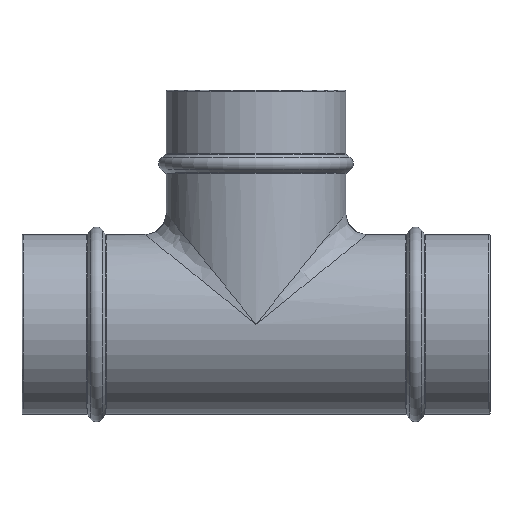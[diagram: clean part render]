
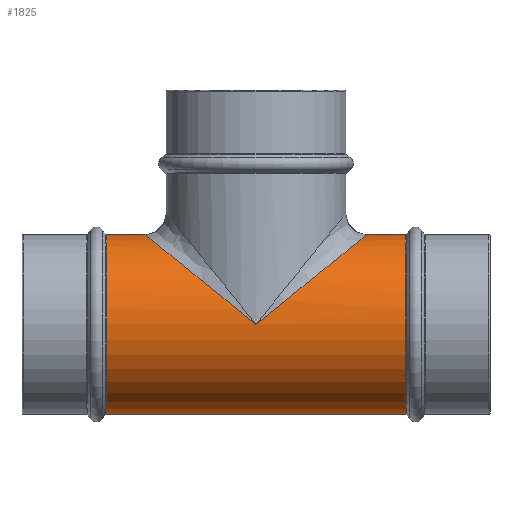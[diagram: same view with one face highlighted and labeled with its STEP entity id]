
A CAD part, top view. The second image highlights one B-rep face of the part: STEP entity #1825.
In plain terms, the highlighted cylindrical face has radius 42.25 mm (diameter 84.5 mm), a partial arc.
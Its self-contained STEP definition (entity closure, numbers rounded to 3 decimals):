
#395=DIRECTION('',(-1.,0.,0.));
#396=VECTOR('',#395,18.092);
#397=CARTESIAN_POINT('',(70.342,42.25,0.));
#398=LINE('',#397,#396);
#402=CARTESIAN_POINT('',(52.25,42.25,
0.));
#458=DIRECTION('',(-1.,0.,0.));
#459=VECTOR('',#458,18.092);
#460=CARTESIAN_POINT('',(-52.25,42.25,
0.));
#461=LINE('',#460,#459);
#473=DIRECTION('',(-1.,0.,0.));
#474=VECTOR('',#473,140.684);
#475=CARTESIAN_POINT('',(70.342,-42.25,0.));
#476=LINE('',#475,#474);
#556=CARTESIAN_POINT('',(70.342,0.,0.));
#557=DIRECTION('',(1.,0.,0.));
#558=DIRECTION('',(0.,1.,0.));
#559=AXIS2_PLACEMENT_3D('',#556,#557,#558);
#564=CARTESIAN_POINT('',(-70.342,0.,0.));
#565=DIRECTION('',(-1.,0.,0.));
#566=DIRECTION('',(0.,-1.,0.));
#567=AXIS2_PLACEMENT_3D('',#564,#565,#566);
#572=CARTESIAN_POINT('',(-52.25,42.25,
0.));
#573=CARTESIAN_POINT('',(-52.25,42.25,1.592));
#574=CARTESIAN_POINT('',(-52.025,42.068,4.836));
#575=CARTESIAN_POINT('',(-50.968,41.213,9.762));
#576=CARTESIAN_POINT('',(-49.083,39.689,14.815));
#577=CARTESIAN_POINT('',(-46.385,37.507,19.672));
#578=CARTESIAN_POINT('',(-43.334,35.04,23.739));
#579=CARTESIAN_POINT('',(-40.343,32.622,26.938));
#580=CARTESIAN_POINT('',(-37.18,30.064,29.773));
#581=CARTESIAN_POINT('',(-33.423,27.027,32.563));
#582=CARTESIAN_POINT('',(-29.513,23.864,34.929));
#583=CARTESIAN_POINT('',(-25.921,20.96,36.734));
#584=CARTESIAN_POINT('',(-22.142,17.904,38.325));
#585=CARTESIAN_POINT('',(-17.884,14.461,39.758));
#586=CARTESIAN_POINT('',(-13.468,10.89,40.88));
#587=CARTESIAN_POINT('',(-9.105,7.363,41.646));
#588=CARTESIAN_POINT('',(-5.208,4.211,42.089));
#589=CARTESIAN_POINT('',(-1.806,1.461,42.25));
#590=CARTESIAN_POINT('',(0.,0.,42.25));
#595=CARTESIAN_POINT('',(0.,0.,42.25));
#596=CARTESIAN_POINT('',(1.815,1.467,42.25));
#597=CARTESIAN_POINT('',(5.224,4.224,42.086));
#598=CARTESIAN_POINT('',(9.002,7.279,41.66));
#599=CARTESIAN_POINT('',(13.428,10.858,40.891));
#600=CARTESIAN_POINT('',(17.96,14.522,39.739));
#601=CARTESIAN_POINT('',(22.322,18.05,38.258));
#602=CARTESIAN_POINT('',(26.082,21.09,36.66));
#603=CARTESIAN_POINT('',(29.692,24.009,34.83));
#604=CARTESIAN_POINT('',(33.59,27.161,32.451));
#605=CARTESIAN_POINT('',(37.322,30.179,29.655));
#606=CARTESIAN_POINT('',(40.434,32.695,26.848));
#607=CARTESIAN_POINT('',(43.434,35.121,23.62));
#608=CARTESIAN_POINT('',(46.465,37.572,19.547));
#609=CARTESIAN_POINT('',(49.134,39.731,14.699));
#610=CARTESIAN_POINT('',(50.987,41.228,9.69));
#611=CARTESIAN_POINT('',(52.029,42.071,4.799));
#612=CARTESIAN_POINT('',(52.25,42.25,1.58));
#613=CARTESIAN_POINT('',(52.25,42.25,
0.));
#1201=VERTEX_POINT('',#572);
#1202=VERTEX_POINT('',#590);
#1205=VERTEX_POINT('',#402);
#1243=CARTESIAN_POINT('',(70.342,-42.25,0.));
#1244=CARTESIAN_POINT('',(70.342,42.25,0.));
#1245=VERTEX_POINT('',#1243);
#1246=VERTEX_POINT('',#1244);
#1259=CARTESIAN_POINT('',(-70.342,-42.25,0.));
#1260=CARTESIAN_POINT('',(-70.342,42.25,0.));
#1261=VERTEX_POINT('',#1259);
#1262=VERTEX_POINT('',#1260);
#1809=CARTESIAN_POINT('',(-121.,0.,0.));
#1810=DIRECTION('',(1.,0.,0.));
#1811=DIRECTION('',(0.,-1.,0.));
#1812=AXIS2_PLACEMENT_3D('',#1809,#1810,#1811);
#1813=CYLINDRICAL_SURFACE('',#1812,42.25);
#1814=ORIENTED_EDGE('',*,*,#1800,.T.);
#1815=ORIENTED_EDGE('',*,*,#1743,.T.);
#1817=ORIENTED_EDGE('',*,*,#1816,.T.);
#1818=ORIENTED_EDGE('',*,*,#1739,.F.);
#1820=ORIENTED_EDGE('',*,*,#1819,.T.);
#1821=ORIENTED_EDGE('',*,*,#1614,.T.);
#1822=ORIENTED_EDGE('',*,*,#1734,.F.);
#1823=EDGE_LOOP('',(#1814,#1815,#1817,#1818,#1820,#1821,#1822));
#1824=FACE_OUTER_BOUND('',#1823,.F.);
#560=CIRCLE('',#559,42.25);
#568=CIRCLE('',#567,42.25);
#591=B_SPLINE_CURVE_WITH_KNOTS('',3,(#572,#573,#574,#575,#576,#577,#578,#579,
#580,#581,#582,#583,#584,#585,#586,#587,#588,#589,#590),.UNSPECIFIED.,.F.,.F.,
(4,1,1,1,1,1,1,1,1,1,1,1,1,1,1,1,4),(0.,0.063,0.125,0.188,0.25,
0.313,0.375,0.438,0.5,0.563,0.625,0.688,0.75,0.813,
0.875,0.938,1.),.UNSPECIFIED.);
#614=B_SPLINE_CURVE_WITH_KNOTS('',3,(#595,#596,#597,#598,#599,#600,#601,#602,
#603,#604,#605,#606,#607,#608,#609,#610,#611,#612,#613),.UNSPECIFIED.,.F.,.F.,
(4,1,1,1,1,1,1,1,1,1,1,1,1,1,1,1,4),(0.,0.063,0.125,0.188,0.25,
0.313,0.375,0.438,0.5,0.563,0.625,0.688,0.75,0.813,
0.875,0.938,1.),.UNSPECIFIED.);
#1614=EDGE_CURVE('',#1202,#1205,#614,.T.);
#1734=EDGE_CURVE('',#1246,#1205,#398,.T.);
#1739=EDGE_CURVE('',#1201,#1262,#461,.T.);
#1743=EDGE_CURVE('',#1245,#1261,#476,.T.);
#1800=EDGE_CURVE('',#1246,#1245,#560,.T.);
#1816=EDGE_CURVE('',#1261,#1262,#568,.T.);
#1819=EDGE_CURVE('',#1201,#1202,#591,.T.);
#1825=ADVANCED_FACE('',(#1824),#1813,.T.);
